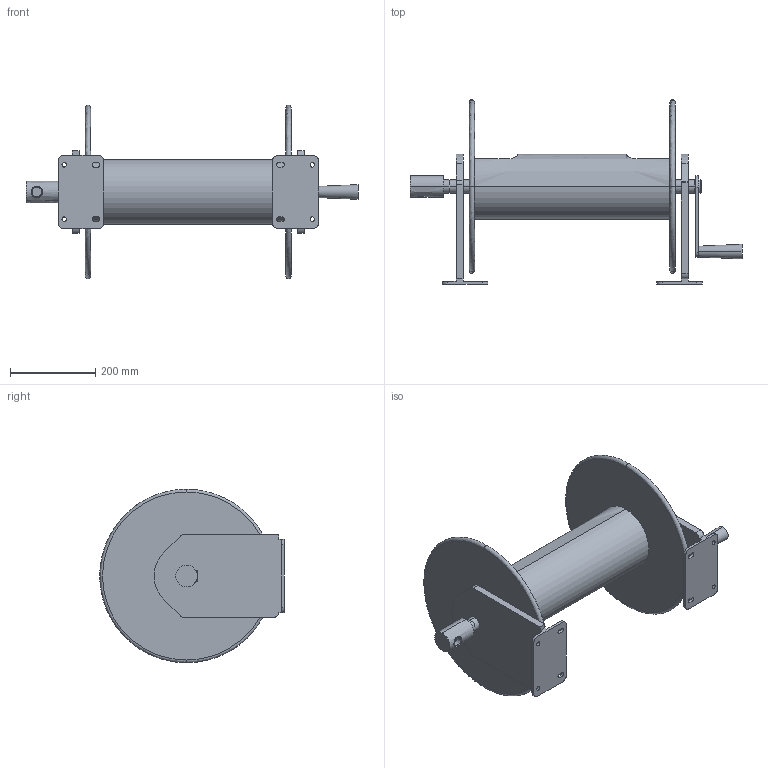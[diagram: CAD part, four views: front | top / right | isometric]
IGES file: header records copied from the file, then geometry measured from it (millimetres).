
Start section:  PTC IGES file: c23018_x_xxx.igs
Global section: file name: c23018_x_xxx.igs; native system: Creo Parametric by PTC Inc.; preprocessor: 2023154; author: Mike.Papaik; organization: Unknown; date: 20250908.130723; units: inch
Bounding box: 777.57 x 431.8 x 406.4 mm (x, y, z)
Surface area: 1302035.1 mm2 (no closed solid volume)
Topology: 0 solids, 0 shells, 164 faces, 962 edges, 1034 vertices
Faces by surface type: revolution 95, bspline 69
